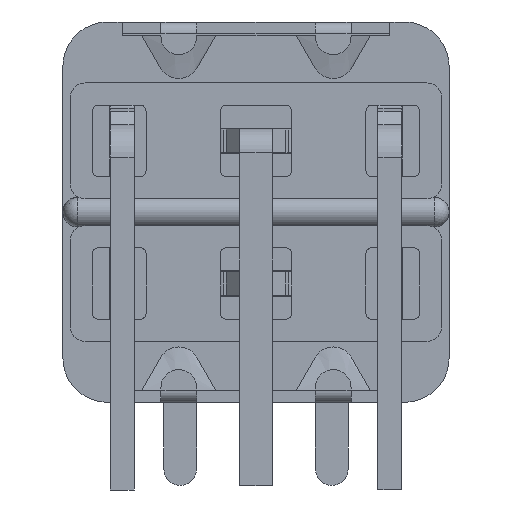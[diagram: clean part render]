
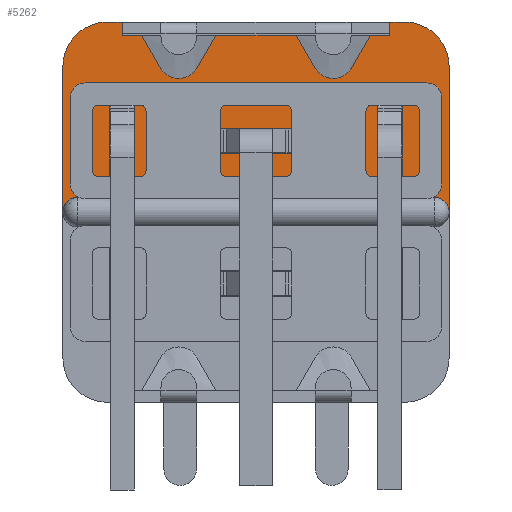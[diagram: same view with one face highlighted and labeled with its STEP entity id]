
A CAD part, front view. The second image highlights one B-rep face of the part: STEP entity #5262.
In plain terms, the highlighted planar face has unit normal (0, -1, 0) as drawn and (0, 0, -1) by its records, which use the part's own axes.
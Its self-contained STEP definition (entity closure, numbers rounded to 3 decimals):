
#4490=CARTESIAN_POINT('',(3.206,-4.846,0.0));
#4491=VERTEX_POINT('',#4490);
#4498=CARTESIAN_POINT('',(3.85,-5.961,0.0));
#4499=VERTEX_POINT('',#4498);
#4500=CARTESIAN_POINT('',(3.85,-5.961,0.0));
#4501=DIRECTION('',(-0.5,0.866,0.0));
#4502=VECTOR('',#4501,1.288);
#4503=LINE('',#4500,#4502);
#4504=EDGE_CURVE('',#4499,#4491,#4503,.T.);
#4582=CARTESIAN_POINT('',(-1.994,-4.846,0.0));
#4583=VERTEX_POINT('',#4582);
#4590=CARTESIAN_POINT('',(-1.35,-5.961,0.0));
#4591=VERTEX_POINT('',#4590);
#4592=CARTESIAN_POINT('',(-1.35,-5.961,0.0));
#4593=DIRECTION('',(-0.5,0.866,0.0));
#4594=VECTOR('',#4593,1.288);
#4595=LINE('',#4592,#4594);
#4596=EDGE_CURVE('',#4591,#4583,#4595,.T.);
#4687=CARTESIAN_POINT('',(-6.0,-0.5,0.0));
#4688=VERTEX_POINT('',#4687);
#4695=CARTESIAN_POINT('',(-6.5,0.,0.0));
#4696=VERTEX_POINT('',#4695);
#4697=CARTESIAN_POINT('',(-6.,0.,0.0));
#4698=DIRECTION('',(0.0,0.0,1.0));
#4699=DIRECTION('',(0.0,1.0,0.0));
#4700=AXIS2_PLACEMENT_3D('',#4697,#4698,#4699);
#4701=CIRCLE('',#4700,0.5);
#4702=EDGE_CURVE('',#4696,#4688,#4701,.T.);
#4728=CARTESIAN_POINT('',(6.0,-0.5,0.0));
#4729=VERTEX_POINT('',#4728);
#4736=CARTESIAN_POINT('',(-6.0,-0.5,0.0));
#4737=DIRECTION('',(1.0,0.0,0.0));
#4738=VECTOR('',#4737,12.0);
#4739=LINE('',#4736,#4738);
#4740=EDGE_CURVE('',#4688,#4729,#4739,.T.);
#4777=CARTESIAN_POINT('',(6.5,0.,0.0));
#4778=VERTEX_POINT('',#4777);
#4786=CARTESIAN_POINT('',(6.,0.,0.0));
#4787=DIRECTION('',(0.0,0.0,1.0));
#4788=DIRECTION('',(0.0,-1.0,0.0));
#4789=AXIS2_PLACEMENT_3D('',#4786,#4787,#4788);
#4790=CIRCLE('',#4789,0.5);
#4791=EDGE_CURVE('',#4729,#4778,#4790,.T.);
#5030=CARTESIAN_POINT('',(0.,-0.002,0.0));
#5031=DIRECTION('',(0.0,0.0,1.0));
#5032=DIRECTION('',(1.0,0.0,0.0));
#5033=AXIS2_PLACEMENT_3D('',#5030,#5031,#5032);
#5034=PLANE('',#5033);
#5035=ORIENTED_EDGE('',*,*,#4702,.T.);
#5036=ORIENTED_EDGE('',*,*,#4740,.T.);
#5037=ORIENTED_EDGE('',*,*,#4791,.T.);
#5038=CARTESIAN_POINT('',(6.5,-4.9,0.0));
#5039=VERTEX_POINT('',#5038);
#5040=CARTESIAN_POINT('',(6.5,-4.9,0.0));
#5041=DIRECTION('',(0.0,1.0,0.0));
#5042=VECTOR('',#5041,4.9);
#5043=LINE('',#5040,#5042);
#5044=EDGE_CURVE('',#5039,#4778,#5043,.T.);
#5045=ORIENTED_EDGE('',*,*,#5044,.F.);
#5046=CARTESIAN_POINT('',(5.0,-6.4,0.0));
#5047=VERTEX_POINT('',#5046);
#5048=CARTESIAN_POINT('',(5.0,-4.9,0.0));
#5049=DIRECTION('',(0.0,0.0,1.0));
#5050=DIRECTION('',(0.0,-1.0,0.0));
#5051=AXIS2_PLACEMENT_3D('',#5048,#5049,#5050);
#5052=CIRCLE('',#5051,1.5);
#5053=EDGE_CURVE('',#5047,#5039,#5052,.T.);
#5054=ORIENTED_EDGE('',*,*,#5053,.F.);
#5055=CARTESIAN_POINT('',(4.5,-6.4,0.0));
#5056=VERTEX_POINT('',#5055);
#5057=CARTESIAN_POINT('',(4.5,-6.4,0.0));
#5058=DIRECTION('',(1.0,0.0,0.0));
#5059=VECTOR('',#5058,0.5);
#5060=LINE('',#5057,#5059);
#5061=EDGE_CURVE('',#5056,#5047,#5060,.T.);
#5062=ORIENTED_EDGE('',*,*,#5061,.F.);
#5063=CARTESIAN_POINT('',(4.5,-5.961,0.0));
#5064=VERTEX_POINT('',#5063);
#5065=CARTESIAN_POINT('',(4.5,-5.961,0.0));
#5066=DIRECTION('',(0.0,-1.0,0.0));
#5067=VECTOR('',#5066,0.439);
#5068=LINE('',#5065,#5067);
#5069=EDGE_CURVE('',#5064,#5056,#5068,.T.);
#5070=ORIENTED_EDGE('',*,*,#5069,.F.);
#5071=CARTESIAN_POINT('',(3.85,-5.961,0.0));
#5072=DIRECTION('',(1.0,0.0,0.0));
#5073=VECTOR('',#5072,0.65);
#5074=LINE('',#5071,#5073);
#5075=EDGE_CURVE('',#4499,#5064,#5074,.T.);
#5076=ORIENTED_EDGE('',*,*,#5075,.F.);
#5077=ORIENTED_EDGE('',*,*,#4504,.T.);
#5078=CARTESIAN_POINT('',(1.994,-4.846,0.0));
#5079=VERTEX_POINT('',#5078);
#5080=CARTESIAN_POINT('',(2.6,-5.196,0.0));
#5081=DIRECTION('',(0.0,0.0,1.0));
#5082=DIRECTION('',(-0.866,0.5,0.0));
#5083=AXIS2_PLACEMENT_3D('',#5080,#5081,#5082);
#5084=CIRCLE('',#5083,0.7);
#5085=EDGE_CURVE('',#4491,#5079,#5084,.T.);
#5086=ORIENTED_EDGE('',*,*,#5085,.T.);
#5087=CARTESIAN_POINT('',(1.35,-5.961,0.0));
#5088=VERTEX_POINT('',#5087);
#5089=CARTESIAN_POINT('',(1.994,-4.846,0.0));
#5090=DIRECTION('',(-0.5,-0.866,0.0));
#5091=VECTOR('',#5090,1.288);
#5092=LINE('',#5089,#5091);
#5093=EDGE_CURVE('',#5079,#5088,#5092,.T.);
#5094=ORIENTED_EDGE('',*,*,#5093,.T.);
#5095=CARTESIAN_POINT('',(-1.35,-5.961,0.0));
#5096=DIRECTION('',(1.0,0.0,0.0));
#5097=VECTOR('',#5096,2.7);
#5098=LINE('',#5095,#5097);
#5099=EDGE_CURVE('',#4591,#5088,#5098,.T.);
#5100=ORIENTED_EDGE('',*,*,#5099,.F.);
#5101=ORIENTED_EDGE('',*,*,#4596,.T.);
#5102=CARTESIAN_POINT('',(-3.206,-4.846,0.0));
#5103=VERTEX_POINT('',#5102);
#5104=CARTESIAN_POINT('',(-2.6,-5.196,0.0));
#5105=DIRECTION('',(0.0,0.0,1.0));
#5106=DIRECTION('',(-0.866,0.5,0.0));
#5107=AXIS2_PLACEMENT_3D('',#5104,#5105,#5106);
#5108=CIRCLE('',#5107,0.7);
#5109=EDGE_CURVE('',#4583,#5103,#5108,.T.);
#5110=ORIENTED_EDGE('',*,*,#5109,.T.);
#5111=CARTESIAN_POINT('',(-3.85,-5.961,0.0));
#5112=VERTEX_POINT('',#5111);
#5113=CARTESIAN_POINT('',(-3.206,-4.846,0.0));
#5114=DIRECTION('',(-0.5,-0.866,0.0));
#5115=VECTOR('',#5114,1.288);
#5116=LINE('',#5113,#5115);
#5117=EDGE_CURVE('',#5103,#5112,#5116,.T.);
#5118=ORIENTED_EDGE('',*,*,#5117,.T.);
#5119=CARTESIAN_POINT('',(-4.5,-5.961,0.0));
#5120=VERTEX_POINT('',#5119);
#5121=CARTESIAN_POINT('',(-4.5,-5.961,0.0));
#5122=DIRECTION('',(1.0,0.0,0.0));
#5123=VECTOR('',#5122,0.65);
#5124=LINE('',#5121,#5123);
#5125=EDGE_CURVE('',#5120,#5112,#5124,.T.);
#5126=ORIENTED_EDGE('',*,*,#5125,.F.);
#5127=CARTESIAN_POINT('',(-4.5,-6.4,0.0));
#5128=VERTEX_POINT('',#5127);
#5129=CARTESIAN_POINT('',(-4.5,-6.4,0.0));
#5130=DIRECTION('',(0.0,1.0,0.0));
#5131=VECTOR('',#5130,0.439);
#5132=LINE('',#5129,#5131);
#5133=EDGE_CURVE('',#5128,#5120,#5132,.T.);
#5134=ORIENTED_EDGE('',*,*,#5133,.F.);
#5135=CARTESIAN_POINT('',(-5.,-6.4,0.0));
#5136=VERTEX_POINT('',#5135);
#5137=CARTESIAN_POINT('',(-5.,-6.4,0.0));
#5138=DIRECTION('',(1.0,0.0,0.0));
#5139=VECTOR('',#5138,0.5);
#5140=LINE('',#5137,#5139);
#5141=EDGE_CURVE('',#5136,#5128,#5140,.T.);
#5142=ORIENTED_EDGE('',*,*,#5141,.F.);
#5143=CARTESIAN_POINT('',(-6.5,-4.9,0.0));
#5144=VERTEX_POINT('',#5143);
#5145=CARTESIAN_POINT('',(-5.,-4.9,0.0));
#5146=DIRECTION('',(0.0,0.0,1.0));
#5147=DIRECTION('',(-1.0,0.0,0.0));
#5148=AXIS2_PLACEMENT_3D('',#5145,#5146,#5147);
#5149=CIRCLE('',#5148,1.5);
#5150=EDGE_CURVE('',#5144,#5136,#5149,.T.);
#5151=ORIENTED_EDGE('',*,*,#5150,.F.);
#5152=CARTESIAN_POINT('',(-6.5,0.,0.0));
#5153=DIRECTION('',(0.0,-1.0,0.0));
#5154=VECTOR('',#5153,4.9);
#5155=LINE('',#5152,#5154);
#5156=EDGE_CURVE('',#4696,#5144,#5155,.T.);
#5157=ORIENTED_EDGE('',*,*,#5156,.F.);
#5158=EDGE_LOOP('',(#5035,#5036,#5037,#5045,#5054,#5062,#5070,#5076,#5077,#5086,#5094,#5100,#5101,#5110,#5118,#5126,#5134,#5142,#5151,#5157));
#5159=FACE_OUTER_BOUND('',#5158,.T.);
#5160=CARTESIAN_POINT('',(-4.075,-3.825,0.0));
#5161=VERTEX_POINT('',#5160);
#5162=CARTESIAN_POINT('',(-4.075,-0.975,0.0));
#5163=VERTEX_POINT('',#5162);
#5164=CARTESIAN_POINT('',(-4.075,-3.825,0.0));
#5165=DIRECTION('',(0.0,1.0,0.0));
#5166=VECTOR('',#5165,2.85);
#5167=LINE('',#5164,#5166);
#5168=EDGE_CURVE('',#5161,#5163,#5167,.T.);
#5169=ORIENTED_EDGE('',*,*,#5168,.T.);
#5170=CARTESIAN_POINT('',(-4.925,-0.975,0.0));
#5171=VERTEX_POINT('',#5170);
#5172=CARTESIAN_POINT('',(-4.075,-0.975,0.0));
#5173=DIRECTION('',(-1.0,0.0,0.0));
#5174=VECTOR('',#5173,0.85);
#5175=LINE('',#5172,#5174);
#5176=EDGE_CURVE('',#5163,#5171,#5175,.T.);
#5177=ORIENTED_EDGE('',*,*,#5176,.T.);
#5178=CARTESIAN_POINT('',(-4.925,-3.825,0.0));
#5179=VERTEX_POINT('',#5178);
#5180=CARTESIAN_POINT('',(-4.925,-0.975,0.0));
#5181=DIRECTION('',(0.0,-1.0,0.0));
#5182=VECTOR('',#5181,2.85);
#5183=LINE('',#5180,#5182);
#5184=EDGE_CURVE('',#5171,#5179,#5183,.T.);
#5185=ORIENTED_EDGE('',*,*,#5184,.T.);
#5186=CARTESIAN_POINT('',(-4.925,-3.825,0.0));
#5187=DIRECTION('',(1.0,0.0,0.0));
#5188=VECTOR('',#5187,0.85);
#5189=LINE('',#5186,#5188);
#5190=EDGE_CURVE('',#5179,#5161,#5189,.T.);
#5191=ORIENTED_EDGE('',*,*,#5190,.T.);
#5192=EDGE_LOOP('',(#5169,#5177,#5185,#5191));
#5193=FACE_BOUND('',#5192,.T.);
#5194=CARTESIAN_POINT('',(1.425,-2.825,0.0));
#5195=VERTEX_POINT('',#5194);
#5196=CARTESIAN_POINT('',(1.425,-1.975,0.0));
#5197=VERTEX_POINT('',#5196);
#5198=CARTESIAN_POINT('',(1.425,-2.825,0.0));
#5199=DIRECTION('',(0.0,1.0,0.0));
#5200=VECTOR('',#5199,0.85);
#5201=LINE('',#5198,#5200);
#5202=EDGE_CURVE('',#5195,#5197,#5201,.T.);
#5203=ORIENTED_EDGE('',*,*,#5202,.T.);
#5204=CARTESIAN_POINT('',(-1.425,-1.975,0.0));
#5205=VERTEX_POINT('',#5204);
#5206=CARTESIAN_POINT('',(1.425,-1.975,0.0));
#5207=DIRECTION('',(-1.0,0.0,0.0));
#5208=VECTOR('',#5207,2.85);
#5209=LINE('',#5206,#5208);
#5210=EDGE_CURVE('',#5197,#5205,#5209,.T.);
#5211=ORIENTED_EDGE('',*,*,#5210,.T.);
#5212=CARTESIAN_POINT('',(-1.425,-2.825,0.0));
#5213=VERTEX_POINT('',#5212);
#5214=CARTESIAN_POINT('',(-1.425,-1.975,0.0));
#5215=DIRECTION('',(0.0,-1.0,0.0));
#5216=VECTOR('',#5215,0.85);
#5217=LINE('',#5214,#5216);
#5218=EDGE_CURVE('',#5205,#5213,#5217,.T.);
#5219=ORIENTED_EDGE('',*,*,#5218,.T.);
#5220=CARTESIAN_POINT('',(-1.425,-2.825,0.0));
#5221=DIRECTION('',(1.0,0.0,0.0));
#5222=VECTOR('',#5221,2.85);
#5223=LINE('',#5220,#5222);
#5224=EDGE_CURVE('',#5213,#5195,#5223,.T.);
#5225=ORIENTED_EDGE('',*,*,#5224,.T.);
#5226=EDGE_LOOP('',(#5203,#5211,#5219,#5225));
#5227=FACE_BOUND('',#5226,.T.);
#5228=CARTESIAN_POINT('',(4.925,-3.825,0.0));
#5229=VERTEX_POINT('',#5228);
#5230=CARTESIAN_POINT('',(4.925,-0.975,0.0));
#5231=VERTEX_POINT('',#5230);
#5232=CARTESIAN_POINT('',(4.925,-3.825,0.0));
#5233=DIRECTION('',(0.0,1.0,0.0));
#5234=VECTOR('',#5233,2.85);
#5235=LINE('',#5232,#5234);
#5236=EDGE_CURVE('',#5229,#5231,#5235,.T.);
#5237=ORIENTED_EDGE('',*,*,#5236,.T.);
#5238=CARTESIAN_POINT('',(4.075,-0.975,0.0));
#5239=VERTEX_POINT('',#5238);
#5240=CARTESIAN_POINT('',(4.925,-0.975,0.0));
#5241=DIRECTION('',(-1.0,0.0,0.0));
#5242=VECTOR('',#5241,0.85);
#5243=LINE('',#5240,#5242);
#5244=EDGE_CURVE('',#5231,#5239,#5243,.T.);
#5245=ORIENTED_EDGE('',*,*,#5244,.T.);
#5246=CARTESIAN_POINT('',(4.075,-3.825,0.0));
#5247=VERTEX_POINT('',#5246);
#5248=CARTESIAN_POINT('',(4.075,-0.975,0.0));
#5249=DIRECTION('',(0.0,-1.0,0.0));
#5250=VECTOR('',#5249,2.85);
#5251=LINE('',#5248,#5250);
#5252=EDGE_CURVE('',#5239,#5247,#5251,.T.);
#5253=ORIENTED_EDGE('',*,*,#5252,.T.);
#5254=CARTESIAN_POINT('',(4.075,-3.825,0.0));
#5255=DIRECTION('',(1.0,0.0,0.0));
#5256=VECTOR('',#5255,0.85);
#5257=LINE('',#5254,#5256);
#5258=EDGE_CURVE('',#5247,#5229,#5257,.T.);
#5259=ORIENTED_EDGE('',*,*,#5258,.T.);
#5260=EDGE_LOOP('',(#5237,#5245,#5253,#5259));
#5261=FACE_BOUND('',#5260,.T.);
#5262=ADVANCED_FACE('',(#5159,#5193,#5227,#5261),#5034,.F.);
